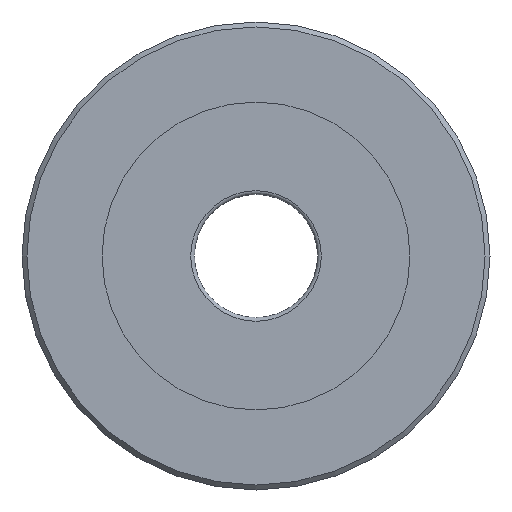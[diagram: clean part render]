
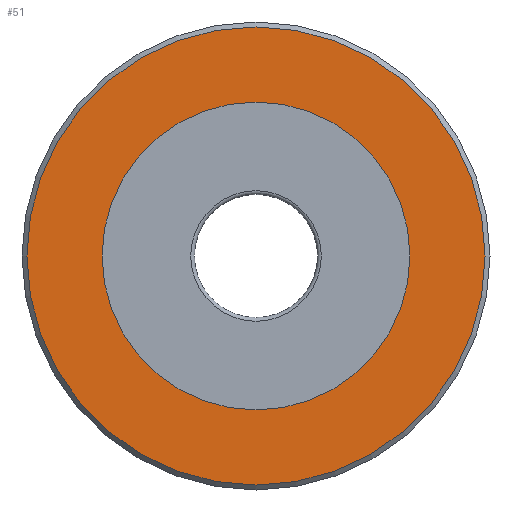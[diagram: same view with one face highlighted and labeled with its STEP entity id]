
A CAD part, left-side view. The second image highlights one B-rep face of the part: STEP entity #51.
In plain terms, the highlighted planar face has unit normal (-1, 0, 0).
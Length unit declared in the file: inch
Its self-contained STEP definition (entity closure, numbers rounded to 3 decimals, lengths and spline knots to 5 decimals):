
#24=CARTESIAN_POINT('',(10.75,33.3,0.));
#25=VERTEX_POINT('',#24);
#26=CARTESIAN_POINT('',(10.75,24.,0.));
#27=DIRECTION('',(-1.,0.,0.));
#28=DIRECTION('',(0.,1.,0.));
#29=AXIS2_PLACEMENT_3D('',#26,#27,#28);
#30=CIRCLE('',#29,9.3);
#31=EDGE_CURVE('',#25,#25,#30,.T.);
#32=ORIENTED_EDGE('',*,*,#31,.T.);
#33=EDGE_LOOP('',(#32));
#34=FACE_OUTER_BOUND('',#33,.T.);
#35=CARTESIAN_POINT('',(10.75,30.25,0.));
#36=VERTEX_POINT('',#35);
#37=CARTESIAN_POINT('',(10.75,24.,0.));
#38=DIRECTION('',(-1.,0.,0.));
#39=DIRECTION('',(0.,1.,0.));
#40=AXIS2_PLACEMENT_3D('',#37,#38,#39);
#41=CIRCLE('',#40,6.25);
#42=EDGE_CURVE('',#36,#36,#41,.T.);
#43=ORIENTED_EDGE('',*,*,#42,.F.);
#44=EDGE_LOOP('',(#43));
#45=FACE_BOUND('',#44,.T.);
#46=CARTESIAN_POINT('',(10.75,31.775,0.));
#47=DIRECTION('',(-1.,0.,0.));
#48=DIRECTION('',(0.,1.,0.));
#49=AXIS2_PLACEMENT_3D('',#46,#47,#48);
#50=PLANE('',#49);
#51=ADVANCED_FACE('',(#34,#45),#50,.T.);
